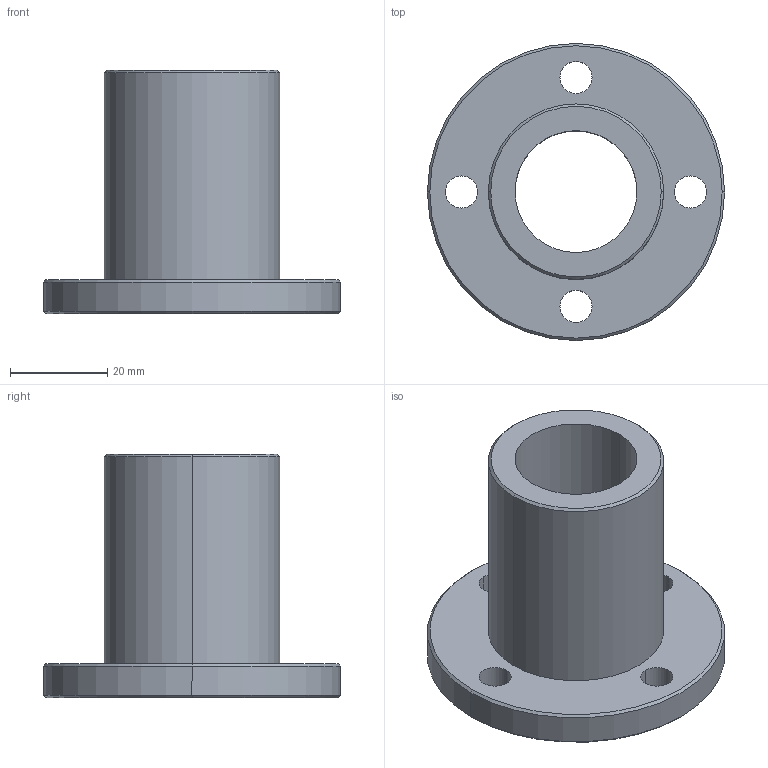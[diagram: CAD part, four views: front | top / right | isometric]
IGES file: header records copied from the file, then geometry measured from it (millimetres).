
Start section: 3D InterOp IGES (Version 21 0 1), Spatial Corp. Copyright (c) 1999-2007.
Global section: file name: TMFON-25R.igs; native system: Spatial Corp.; preprocessor: 3D InterOp GENERIC/IGES 3.0; author: Noname; organization: Noname; date: 20220208.143558; units: millimetre
Bounding box: 61 x 61 x 50 mm (x, y, z)
Surface area: 15155.3 mm2 (no closed solid volume)
Topology: 0 solids, 0 shells, 23 faces, 108 edges, 108 vertices
Faces by surface type: revolution 20, extrusion 3
